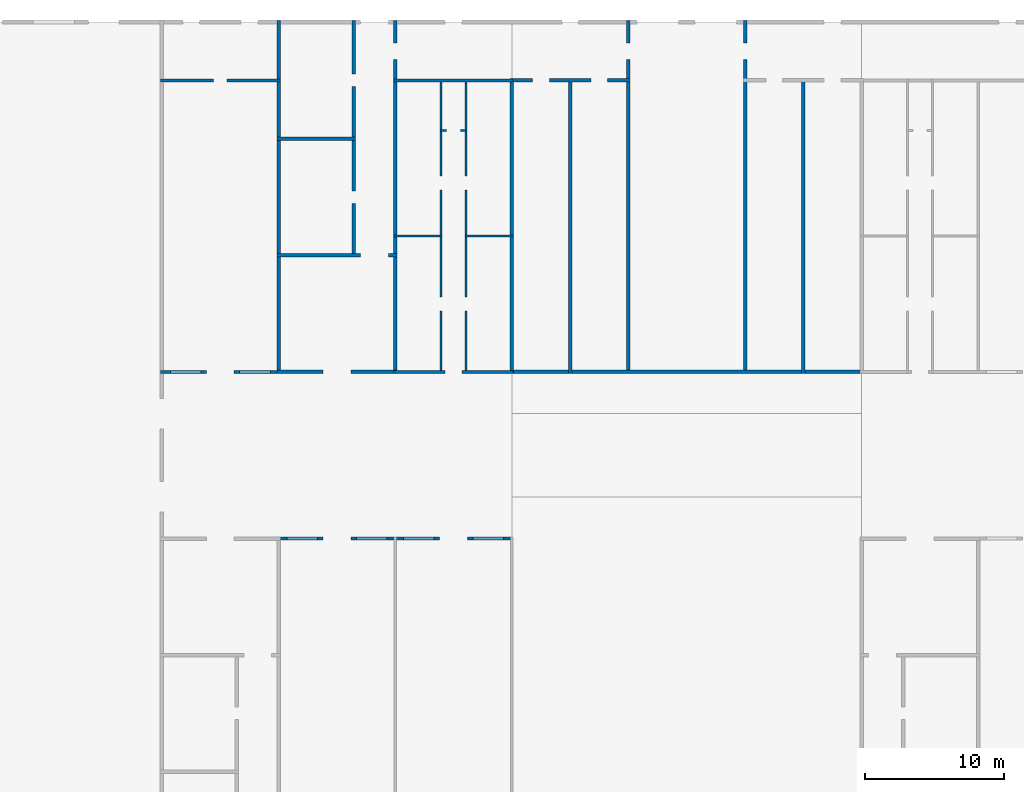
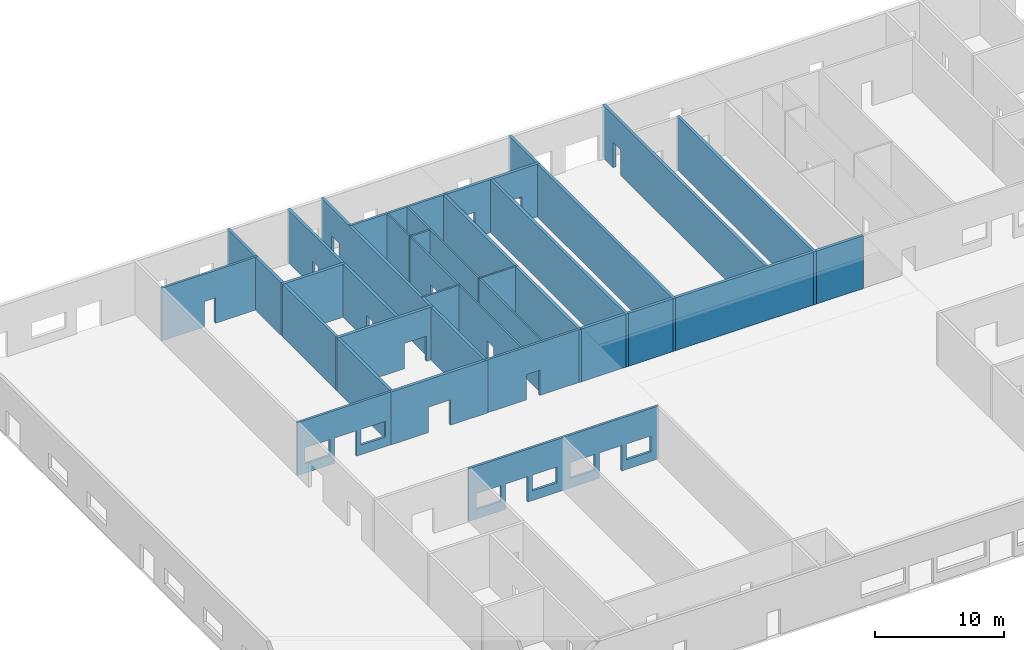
# One storey, part 2 of 4: 23 walls, 30 openings.
"""IFC4 building model written with IfcOpenShell, lengths in millimetres."""

from ifc_helpers import new_model, si_unit, frame, origin_with_axes, place, context, subcontext, project, spatial, indexed_curve, outline, extrude, type_object, element, save


model = new_model("IFC4")

# Units and contexts
model_context = context("Model", 3, precision=1e-05, world=origin_with_axes())
body_context = subcontext(model_context, "Body", "Model", "MODEL_VIEW")
ifc_project = project(units=[si_unit("AREAUNIT", "SQUARE_METRE"), si_unit("VOLUMEUNIT", "CUBIC_METRE"), si_unit("LENGTHUNIT", "METRE", prefix="MILLI")], contexts=[model_context])

# Site, building, storey
site = spatial("IfcSite", under=ifc_project, Name="PIN 00000000 (sample)")
building = spatial("IfcBuilding", under=site, Name="Sample Shopping Mall")
storey = spatial("IfcBuildingStorey", under=building, Name="Ground Floor", Elevation=0.0)

# Wall, openings
wall_type_1 = type_object("IfcWallType", Name="WT-200", PredefinedType="SOLIDWALL")
wall_1_placement = place(None, frame((30500.0, 40699.99999999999, 0.0), z_axis=(0.0, 0.0, 1.0), x_axis=(1.0, 0.0, 0.0)))
wall_1 = element("IfcWall", 1, at=wall_1_placement, inside=storey, type_object=wall_type_1, Name="W10", context=body_context, shape_type="SweptSolid", body=[
    extrude(outline(indexed_curve([(0.0, 0.0), (0.0, 200.0), (16999.999999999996, 200.0), (16999.999999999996, 0.0), (0.0, 0.0)], self_intersect=False)), origin_with_axes(), (0.0, 0.0, 1.0), 5000.0),
])
opening_1_placement = place(wall_1_placement, frame((3299.9999999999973, -100.00000000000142, 0.0), z_axis=(0.0, 0.0, 1.0), x_axis=(1.0, 0.0, 0.0)))
element("IfcOpeningElement", 2, at=opening_1_placement, cuts=wall_1, Name="D39-opening", context=body_context, shape_type="SweptSolid", body=[
    extrude(outline(indexed_curve([(0.0, 0.0), (0.0, 400.0), (1000.0, 400.0), (1000.0, 0.0), (0.0, 0.0)], self_intersect=False)), origin_with_axes(), (0.0, 0.0, 1.0), 2400.0),
])
opening_2_placement = place(wall_1_placement, frame((4300.000000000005, -100.00000000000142, 0.0), z_axis=(0.0, 0.0, 1.0), x_axis=(1.0, 0.0, 0.0)))
element("IfcOpeningElement", 3, at=opening_2_placement, cuts=wall_1, Name="-opening", context=body_context, shape_type="SweptSolid", body=[
    extrude(outline(indexed_curve([(0.0, 0.0), (0.0, 400.0), (1000.0, 400.0), (1000.0, 0.0), (0.0, 0.0)], self_intersect=False)), origin_with_axes(), (0.0, 0.0, 1.0), 2400.0),
])
opening_3_placement = place(wall_1_placement, frame((11700.000000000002, -100.00000000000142, 0.0), z_axis=(0.0, 0.0, 1.0), x_axis=(1.0, 0.0, 0.0)))
element("IfcOpeningElement", 4, at=opening_3_placement, cuts=wall_1, Name="D41-opening", context=body_context, shape_type="SweptSolid", body=[
    extrude(outline(indexed_curve([(0.0, 0.0), (0.0, 400.0), (1000.0, 400.0), (1000.0, 0.0), (0.0, 0.0)], self_intersect=False)), origin_with_axes(), (0.0, 0.0, 1.0), 2400.0),
])
opening_4_placement = place(wall_1_placement, frame((12700.000000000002, -100.00000000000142, 0.0), z_axis=(0.0, 0.0, 1.0), x_axis=(1.0, 0.0, 0.0)))
element("IfcOpeningElement", 5, at=opening_4_placement, cuts=wall_1, Name="-opening", context=body_context, shape_type="SweptSolid", body=[
    extrude(outline(indexed_curve([(0.0, 0.0), (0.0, 400.0), (1000.0, 400.0), (1000.0, 0.0), (0.0, 0.0)], self_intersect=False)), origin_with_axes(), (0.0, 0.0, 1.0), 2400.0),
])
opening_5_placement = place(wall_1_placement, frame((700.0000000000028, -100.00000000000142, 900.0), z_axis=(0.0, 0.0, 1.0), x_axis=(1.0, 0.0, 0.0)))
element("IfcOpeningElement", 6, at=opening_5_placement, cuts=wall_1, Name="-opening", context=body_context, shape_type="SweptSolid", body=[
    extrude(outline(indexed_curve([(0.0, 0.0), (0.0, 400.0), (2200.0, 400.0), (2200.0, 0.0), (0.0, 0.0)], self_intersect=False)), origin_with_axes(), (0.0, 0.0, 1.0), 1500.0),
])
opening_6_placement = place(wall_1_placement, frame((5700.000000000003, -100.00000000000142, 900.0), z_axis=(0.0, 0.0, 1.0), x_axis=(1.0, 0.0, 0.0)))
element("IfcOpeningElement", 7, at=opening_6_placement, cuts=wall_1, Name="-opening", context=body_context, shape_type="SweptSolid", body=[
    extrude(outline(indexed_curve([(0.0, 0.0), (0.0, 400.0), (2200.0, 400.0), (2200.0, 0.0), (0.0, 0.0)], self_intersect=False)), origin_with_axes(), (0.0, 0.0, 1.0), 1500.0),
])
opening_7_placement = place(wall_1_placement, frame((9100.000000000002, -100.00000000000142, 900.0), z_axis=(0.0, 0.0, 1.0), x_axis=(1.0, 0.0, 0.0)))
element("IfcOpeningElement", 8, at=opening_7_placement, cuts=wall_1, Name="-opening", context=body_context, shape_type="SweptSolid", body=[
    extrude(outline(indexed_curve([(0.0, 0.0), (0.0, 400.0), (2200.0, 400.0), (2200.0, 0.0), (0.0, 0.0)], self_intersect=False)), origin_with_axes(), (0.0, 0.0, 1.0), 1500.0),
])
opening_8_placement = place(wall_1_placement, frame((14100.000000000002, -100.00000000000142, 900.0), z_axis=(0.0, 0.0, 1.0), x_axis=(1.0, 0.0, 0.0)))
element("IfcOpeningElement", 9, at=opening_8_placement, cuts=wall_1, Name="-opening", context=body_context, shape_type="SweptSolid", body=[
    extrude(outline(indexed_curve([(0.0, 0.0), (0.0, 400.0), (2200.0, 400.0), (2200.0, 0.0), (0.0, 0.0)], self_intersect=False)), origin_with_axes(), (0.0, 0.0, 1.0), 1500.0),
])

wall_2_placement = place(None, frame((22099.999999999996, 52699.99999999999, 0.0), z_axis=(0.0, 0.0, 1.0), x_axis=(1.0, 0.0, 0.0)))
wall_2 = element("IfcWall", 10, at=wall_2_placement, inside=storey, type_object=wall_type_1, Name="W13", context=body_context, shape_type="SweptSolid", body=[
    extrude(outline(indexed_curve([(0.0, 0.0), (0.0, 200.0), (8600.000000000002, 200.0), (8600.000000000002, 0.0), (0.0, 0.0)], self_intersect=False)), origin_with_axes(), (0.0, 0.0, 1.0), 5000.0),
])
opening_9_placement = place(wall_2_placement, frame((3300.0000000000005, -100.00000000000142, 0.0), z_axis=(0.0, 0.0, 1.0), x_axis=(1.0, 0.0, 0.0)))
element("IfcOpeningElement", 11, at=opening_9_placement, cuts=wall_2, Name="D52-opening", context=body_context, shape_type="SweptSolid", body=[
    extrude(outline(indexed_curve([(0.0, 0.0), (0.0, 400.0), (1000.0, 400.0), (1000.0, 0.0), (0.0, 0.0)], self_intersect=False)), origin_with_axes(), (0.0, 0.0, 1.0), 2400.0),
])
opening_10_placement = place(wall_2_placement, frame((4300.000000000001, -100.00000000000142, 0.0), z_axis=(0.0, 0.0, 1.0), x_axis=(1.0, 0.0, 0.0)))
element("IfcOpeningElement", 12, at=opening_10_placement, cuts=wall_2, Name="-opening", context=body_context, shape_type="SweptSolid", body=[
    extrude(outline(indexed_curve([(0.0, 0.0), (0.0, 400.0), (1000.0, 400.0), (1000.0, 0.0), (0.0, 0.0)], self_intersect=False)), origin_with_axes(), (0.0, 0.0, 1.0), 2400.0),
])
opening_11_placement = place(wall_2_placement, frame((700.0000000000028, -100.00000000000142, 900.0), z_axis=(0.0, 0.0, 1.0), x_axis=(1.0, 0.0, 0.0)))
element("IfcOpeningElement", 13, at=opening_11_placement, cuts=wall_2, Name="-opening", context=body_context, shape_type="SweptSolid", body=[
    extrude(outline(indexed_curve([(0.0, 0.0), (0.0, 400.0), (2200.0, 400.0), (2200.0, 0.0), (0.0, 0.0)], self_intersect=False)), origin_with_axes(), (0.0, 0.0, 1.0), 1500.0),
])
opening_12_placement = place(wall_2_placement, frame((5699.999999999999, -100.00000000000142, 900.0), z_axis=(0.0, 0.0, 1.0), x_axis=(1.0, 0.0, 0.0)))
element("IfcOpeningElement", 14, at=opening_12_placement, cuts=wall_2, Name="-opening", context=body_context, shape_type="SweptSolid", body=[
    extrude(outline(indexed_curve([(0.0, 0.0), (0.0, 400.0), (2200.0, 400.0), (2200.0, 0.0), (0.0, 0.0)], self_intersect=False)), origin_with_axes(), (0.0, 0.0, 1.0), 1500.0),
])

# Wall, opening
wall_3_placement = place(None, frame((38900.0, 52699.99999999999, 0.0), z_axis=(0.0, 0.0, 1.0), x_axis=(1.0, 0.0, 0.0)))
wall_3 = element("IfcWall", 15, at=wall_3_placement, inside=storey, type_object=wall_type_1, Name="W15", context=body_context, shape_type="SweptSolid", body=[
    extrude(outline(indexed_curve([(0.0, 0.0), (0.0, 200.0), (8599.999999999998, 200.0), (8599.999999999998, 0.0), (0.0, 0.0)], self_intersect=False)), origin_with_axes(), (0.0, 0.0, 1.0), 5000.0),
])
opening_13_placement = place(wall_3_placement, frame((3700.0000000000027, -100.00000000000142, 0.0), z_axis=(0.0, 0.0, 1.0), x_axis=(1.0, 0.0, 0.0)))
element("IfcOpeningElement", 16, at=opening_13_placement, cuts=wall_3, Name="D60-opening", context=body_context, shape_type="SweptSolid", body=[
    extrude(outline(indexed_curve([(0.0, 0.0), (0.0, 400.0), (1200.0, 400.0), (1200.0, 0.0), (0.0, 0.0)], self_intersect=False)), origin_with_axes(), (0.0, 0.0, 1.0), 2400.0),
])

wall_4_placement = place(None, frame((22099.999999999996, 73700.0, 0.0), z_axis=(0.0, 0.0, 1.0), x_axis=(1.0, 0.0, 0.0)))
wall_4 = element("IfcWall", 17, at=wall_4_placement, inside=storey, type_object=wall_type_1, Name="W29", context=body_context, shape_type="SweptSolid", body=[
    extrude(outline(indexed_curve([(0.0, 0.0), (0.0, 200.0), (8600.000000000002, 200.0), (8600.000000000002, 0.0), (0.0, 0.0)], self_intersect=False)), origin_with_axes(), (0.0, 0.0, 1.0), 5000.0),
])
opening_14_placement = place(wall_4_placement, frame((3800.0000000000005, -99.99999999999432, 0.0), z_axis=(0.0, 0.0, 1.0), x_axis=(1.0, 0.0, 0.0)))
element("IfcOpeningElement", 18, at=opening_14_placement, cuts=wall_4, Name="-opening", context=body_context, shape_type="SweptSolid", body=[
    extrude(outline(indexed_curve([(0.0, 0.0), (0.0, 400.0), (1000.0, 400.0), (1000.0, 0.0), (0.0, 0.0)], self_intersect=False)), origin_with_axes(), (0.0, 0.0, 1.0), 2400.0),
])

# Wall
wall_5_placement = place(None, frame((38900.0, 73700.0, 0.0), z_axis=(0.0, 0.0, 1.0), x_axis=(1.0, 0.0, 0.0)))
element("IfcWall", 19, at=wall_5_placement, inside=storey, type_object=wall_type_1, Name="W30", context=body_context, shape_type="SweptSolid", body=[
    extrude(outline(indexed_curve([(0.0, 0.0), (0.0, 200.0), (8599.999999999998, 200.0), (8599.999999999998, 0.0), (0.0, 0.0)], self_intersect=False)), origin_with_axes(), (0.0, 0.0, 1.0), 5000.0),
])

# Wall, openings
wall_type_2 = type_object("IfcWallType", Name="WT-250", PredefinedType="SOLIDWALL")
wall_6_placement = place(None, frame((30475.0, 52674.99999999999, 0.0), z_axis=(0.0, 0.0, 1.0), x_axis=(1.0, 0.0, 0.0)))
wall_6 = element("IfcWall", 20, at=wall_6_placement, inside=storey, type_object=wall_type_2, Name="W14", context=body_context, shape_type="SweptSolid", body=[
    extrude(outline(indexed_curve([(0.0, 0.0), (0.0, 250.0), (8649.999999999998, 250.0), (8649.999999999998, 0.0), (0.0, 0.0)], self_intersect=False)), origin_with_axes(), (0.0, 0.0, 1.0), 5000.0),
])
opening_15_placement = place(wall_6_placement, frame((3324.9999999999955, -100.00000000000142, 0.0), z_axis=(0.0, 0.0, 1.0), x_axis=(1.0, 0.0, 0.0)))
element("IfcOpeningElement", 21, at=opening_15_placement, cuts=wall_6, Name="D54-opening", context=body_context, shape_type="SweptSolid", body=[
    extrude(outline(indexed_curve([(0.0, 0.0), (0.0, 450.0), (1000.0, 450.0), (1000.0, 0.0), (0.0, 0.0)], self_intersect=False)), origin_with_axes(), (0.0, 0.0, 1.0), 2400.0),
])
opening_16_placement = place(wall_6_placement, frame((4325.000000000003, -100.00000000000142, 0.0), z_axis=(0.0, 0.0, 1.0), x_axis=(1.0, 0.0, 0.0)))
element("IfcOpeningElement", 22, at=opening_16_placement, cuts=wall_6, Name="-opening", context=body_context, shape_type="SweptSolid", body=[
    extrude(outline(indexed_curve([(0.0, 0.0), (0.0, 450.0), (1000.0, 450.0), (1000.0, 0.0), (0.0, 0.0)], self_intersect=False)), origin_with_axes(), (0.0, 0.0, 1.0), 2400.0),
])

# Wall
wall_7_placement = place(None, frame((47275.0, 52674.99999999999, 0.0), z_axis=(0.0, 0.0, 1.0), x_axis=(1.0, 0.0, 0.0)))
element("IfcWall", 23, at=wall_7_placement, inside=storey, type_object=wall_type_2, Name="W16", context=body_context, shape_type="SweptSolid", body=[
    extrude(outline(indexed_curve([(0.0, 0.0), (0.0, 250.0), (25449.999999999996, 250.0), (25449.999999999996, 0.0), (0.0, 0.0)], self_intersect=False)), origin_with_axes(), (0.0, 0.0, 1.0), 5000.0),
])

# Wall, openings
wall_8_placement = place(None, frame((30475.0, 61075.0, 0.0), z_axis=(0.0, 0.0, 1.0), x_axis=(1.0, 0.0, 0.0)))
wall_8 = element("IfcWall", 24, at=wall_8_placement, inside=storey, type_object=wall_type_2, Name="W19", context=body_context, shape_type="SweptSolid", body=[
    extrude(outline(indexed_curve([(0.0, 0.0), (0.0, 250.0), (8649.999999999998, 250.0), (8649.999999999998, 0.0), (0.0, 0.0)], self_intersect=False)), origin_with_axes(), (0.0, 0.0, 1.0), 5000.0),
])
opening_17_placement = place(wall_8_placement, frame((6024.999999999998, -100.00000000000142, 0.0), z_axis=(0.0, 0.0, 1.0), x_axis=(1.0, 0.0, 0.0)))
element("IfcOpeningElement", 25, at=opening_17_placement, cuts=wall_8, Name="D55-opening", context=body_context, shape_type="SweptSolid", body=[
    extrude(outline(indexed_curve([(0.0, 0.0), (0.0, 450.0), (1000.0, 450.0), (1000.0, 0.0), (0.0, 0.0)], self_intersect=False)), origin_with_axes(), (0.0, 0.0, 1.0), 2400.0),
])
opening_18_placement = place(wall_8_placement, frame((7024.999999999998, -100.00000000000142, 0.0), z_axis=(0.0, 0.0, 1.0), x_axis=(1.0, 0.0, 0.0)))
element("IfcOpeningElement", 26, at=opening_18_placement, cuts=wall_8, Name="-opening", context=body_context, shape_type="SweptSolid", body=[
    extrude(outline(indexed_curve([(0.0, 0.0), (0.0, 450.0), (1000.0, 450.0), (1000.0, 0.0), (0.0, 0.0)], self_intersect=False)), origin_with_axes(), (0.0, 0.0, 1.0), 2400.0),
])

# Wall
wall_9_placement = place(None, frame((30475.0, 69475.0, 0.0), z_axis=(0.0, 0.0, 1.0), x_axis=(1.0, 0.0, 0.0)))
element("IfcWall", 27, at=wall_9_placement, inside=storey, type_object=wall_type_2, Name="W25", context=body_context, shape_type="SweptSolid", body=[
    extrude(outline(indexed_curve([(0.0, 0.0), (0.0, 250.0), (5649.999999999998, 250.0), (5649.999999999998, 0.0), (0.0, 0.0)], self_intersect=False)), origin_with_axes(), (0.0, 0.0, 1.0), 5000.0),
])

# Wall, openings
wall_10_placement = place(None, frame((47275.0, 73675.0, 0.0), z_axis=(0.0, 0.0, 1.0), x_axis=(1.0, 0.0, 0.0)))
wall_10 = element("IfcWall", 28, at=wall_10_placement, inside=storey, type_object=wall_type_2, Name="W31", context=body_context, shape_type="SweptSolid", body=[
    extrude(outline(indexed_curve([(0.0, 0.0), (0.0, 250.0), (8649.999999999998, 250.0), (8649.999999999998, 0.0), (0.0, 0.0)], self_intersect=False)), origin_with_axes(), (0.0, 0.0, 1.0), 5000.0),
])
opening_19_placement = place(wall_10_placement, frame((1625.0, -99.99999999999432, 0.0), z_axis=(0.0, 0.0, 1.0), x_axis=(1.0, 0.0, 0.0)))
element("IfcOpeningElement", 29, at=opening_19_placement, cuts=wall_10, Name="-opening", context=body_context, shape_type="SweptSolid", body=[
    extrude(outline(indexed_curve([(0.0, 0.0), (0.0, 450.0), (1200.0, 450.0), (1200.0, 0.0), (0.0, 0.0)], self_intersect=False)), origin_with_axes(), (0.0, 0.0, 1.0), 2400.0),
])
opening_20_placement = place(wall_10_placement, frame((5825.000000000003, -99.99999999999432, 0.0), z_axis=(0.0, 0.0, 1.0), x_axis=(1.0, 0.0, 0.0)))
element("IfcOpeningElement", 30, at=opening_20_placement, cuts=wall_10, Name="-opening", context=body_context, shape_type="SweptSolid", body=[
    extrude(outline(indexed_curve([(0.0, 0.0), (0.0, 450.0), (1200.0, 450.0), (1200.0, 0.0), (0.0, 0.0)], self_intersect=False)), origin_with_axes(), (0.0, 0.0, 1.0), 2400.0),
])

# Wall
wall_11_placement = place(None, frame((30725.0, 52674.99999999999, 0.0), z_axis=(0.0, 0.0, 1.0), x_axis=(6.123233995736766e-17, 1.0, 0.0)))
element("IfcWall", 31, at=wall_11_placement, inside=storey, type_object=wall_type_2, Name="W39", context=body_context, shape_type="SweptSolid", body=[
    extrude(outline(indexed_curve([(0.0, 0.0), (0.0, 250.0), (25450.000000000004, 250.0), (25450.000000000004, 0.0), (0.0, 0.0)], self_intersect=False)), origin_with_axes(), (0.0, 0.0, 1.0), 5000.0),
])

# Wall, openings
wall_12_placement = place(None, frame((36125.0, 61075.0, 0.0), z_axis=(0.0, 0.0, 1.0), x_axis=(6.123233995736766e-17, 1.0, 0.0)))
wall_12 = element("IfcWall", 32, at=wall_12_placement, inside=storey, type_object=wall_type_2, Name="W40", context=body_context, shape_type="SweptSolid", body=[
    extrude(outline(indexed_curve([(0.0, 0.0), (0.0, 250.0), (17049.999999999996, 250.0), (17049.999999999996, 0.0), (0.0, 0.0)], self_intersect=False)), origin_with_axes(), (0.0, 0.0, 1.0), 5000.0),
])
opening_21_placement = place(wall_12_placement, frame((3875.0, -100.00000000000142, 0.0), z_axis=(0.0, 0.0, 1.0), x_axis=(1.0, 0.0, 0.0)))
element("IfcOpeningElement", 33, at=opening_21_placement, cuts=wall_12, Name="-opening", context=body_context, shape_type="SweptSolid", body=[
    extrude(outline(indexed_curve([(0.0, 0.0), (0.0, 450.0), (900.0, 450.0), (900.0, 0.0), (0.0, 0.0)], self_intersect=False)), origin_with_axes(), (0.0, 0.0, 1.0), 2400.0),
])
opening_22_placement = place(wall_12_placement, frame((12275.000000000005, -100.00000000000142, 0.0), z_axis=(0.0, 0.0, 1.0), x_axis=(1.0, 0.0, 0.0)))
element("IfcOpeningElement", 34, at=opening_22_placement, cuts=wall_12, Name="-opening", context=body_context, shape_type="SweptSolid", body=[
    extrude(outline(indexed_curve([(0.0, 0.0), (0.0, 450.0), (900.0, 450.0), (900.0, 0.0), (0.0, 0.0)], self_intersect=False)), origin_with_axes(), (0.0, 0.0, 1.0), 2400.0),
])

# Wall, opening
wall_13_placement = place(None, frame((39125.0, 52674.99999999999, 0.0), z_axis=(0.0, 0.0, 1.0), x_axis=(6.123233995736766e-17, 1.0, 0.0)))
wall_13 = element("IfcWall", 35, at=wall_13_placement, inside=storey, type_object=wall_type_2, Name="W42", context=body_context, shape_type="SweptSolid", body=[
    extrude(outline(indexed_curve([(0.0, 0.0), (0.0, 250.0), (25450.000000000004, 250.0), (25450.000000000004, 0.0), (0.0, 0.0)], self_intersect=False)), origin_with_axes(), (0.0, 0.0, 1.0), 5000.0),
])
opening_23_placement = place(wall_13_placement, frame((22625.0, -99.99999999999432, 0.0), z_axis=(0.0, 0.0, 1.0), x_axis=(1.0, 0.0, 0.0)))
element("IfcOpeningElement", 36, at=opening_23_placement, cuts=wall_13, Name="-opening", context=body_context, shape_type="SweptSolid", body=[
    extrude(outline(indexed_curve([(0.0, 0.0), (0.0, 450.0), (1200.0, 450.0), (1200.0, 0.0), (0.0, 0.0)], self_intersect=False)), origin_with_axes(), (0.0, 0.0, 1.0), 2400.0),
])

# Walls
for number, where, z_axis, x_axis, name in (
    (37, (47525.0, 52674.99999999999, 0.0), (0.0, 0.0, 1.0), (6.123233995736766e-17, 1.0, 0.0), "W47"),
    (38, (51725.0, 52674.99999999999, 0.0), (0.0, 0.0, 1.0), (6.123233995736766e-17, 1.0, 0.0), "W49"),
):
    element("IfcWall", number, at=place(None, frame(where, z_axis=z_axis, x_axis=x_axis)), inside=storey, type_object=wall_type_2, Name=name, context=body_context, shape_type="SweptSolid", body=[
        extrude(outline(indexed_curve([(0.0, 0.0), (0.0, 250.0), (21250.0, 250.0), (21250.0, 0.0), (0.0, 0.0)], self_intersect=False)), origin_with_axes(), (0.0, 0.0, 1.0), 5000.0),
    ])

# Wall, opening
wall_14_placement = place(None, frame((55924.99999999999, 52674.99999999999, 0.0), z_axis=(0.0, 0.0, 1.0), x_axis=(6.123233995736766e-17, 1.0, 0.0)))
wall_14 = element("IfcWall", 39, at=wall_14_placement, inside=storey, type_object=wall_type_2, Name="W50", context=body_context, shape_type="SweptSolid", body=[
    extrude(outline(indexed_curve([(0.0, 0.0), (0.0, 250.0), (25450.000000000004, 250.0), (25450.000000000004, 0.0), (0.0, 0.0)], self_intersect=False)), origin_with_axes(), (0.0, 0.0, 1.0), 5000.0),
])
opening_24_placement = place(wall_14_placement, frame((22625.0, -99.99999999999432, 0.0), z_axis=(0.0, 0.0, 1.0), x_axis=(1.0, 0.0, 0.0)))
element("IfcOpeningElement", 40, at=opening_24_placement, cuts=wall_14, Name="-opening", context=body_context, shape_type="SweptSolid", body=[
    extrude(outline(indexed_curve([(0.0, 0.0), (0.0, 450.0), (1200.0, 450.0), (1200.0, 0.0), (0.0, 0.0)], self_intersect=False)), origin_with_axes(), (0.0, 0.0, 1.0), 2400.0),
])

wall_15_placement = place(None, frame((64325.0, 52674.99999999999, 0.0), z_axis=(0.0, 0.0, 1.0), x_axis=(6.123233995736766e-17, 1.0, 0.0)))
wall_15 = element("IfcWall", 41, at=wall_15_placement, inside=storey, type_object=wall_type_2, Name="W51", context=body_context, shape_type="SweptSolid", body=[
    extrude(outline(indexed_curve([(0.0, 0.0), (0.0, 250.0), (25450.000000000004, 250.0), (25450.000000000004, 0.0), (0.0, 0.0)], self_intersect=False)), origin_with_axes(), (0.0, 0.0, 1.0), 5000.0),
])
opening_25_placement = place(wall_15_placement, frame((22624.999999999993, -99.99999999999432, 0.0), z_axis=(0.0, 0.0, 1.0), x_axis=(1.0, 0.0, 0.0)))
element("IfcOpeningElement", 42, at=opening_25_placement, cuts=wall_15, Name="-opening", context=body_context, shape_type="SweptSolid", body=[
    extrude(outline(indexed_curve([(0.0, 0.0), (0.0, 450.0), (1200.0, 450.0), (1200.0, 0.0), (0.0, 0.0)], self_intersect=False)), origin_with_axes(), (0.0, 0.0, 1.0), 2400.0),
])

# Walls
wall_16_placement = place(None, frame((68525.0, 52674.99999999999, 0.0), z_axis=(0.0, 0.0, 1.0), x_axis=(6.123233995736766e-17, 1.0, 0.0)))
element("IfcWall", 43, at=wall_16_placement, inside=storey, type_object=wall_type_2, Name="W52", context=body_context, shape_type="SweptSolid", body=[
    extrude(outline(indexed_curve([(0.0, 0.0), (0.0, 250.0), (21250.0, 250.0), (21250.0, 0.0), (0.0, 0.0)], self_intersect=False)), origin_with_axes(), (0.0, 0.0, 1.0), 5000.0),
])
wall_type_3 = type_object("IfcWallType", Name="WT-150", PredefinedType="SOLIDWALL")
for number, where, z_axis, x_axis, name in (
    (44, (38924.99999999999, 62525.0, 0.0), (0.0, 0.0, 1.0), (1.0, 0.0, 0.0), "W21"),
    (45, (44025.0, 62525.0, 0.0), (0.0, 0.0, 1.0), (1.0, 0.0, 0.0), "W22"),
):
    element("IfcWall", number, at=place(None, frame(where, z_axis=z_axis, x_axis=x_axis)), inside=storey, type_object=wall_type_3, Name=name, context=body_context, shape_type="SweptSolid", body=[
        extrude(outline(indexed_curve([(0.0, 0.0), (0.0, 150.0), (3449.999999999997, 150.0), (3449.999999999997, 0.0), (0.0, 0.0)], self_intersect=False)), origin_with_axes(), (0.0, 0.0, 1.0), 5000.0),
    ])

# Wall, opening
wall_17_placement = place(None, frame((42224.99999999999, 70125.0, 0.0), z_axis=(0.0, 0.0, 1.0), x_axis=(1.0, 0.0, 0.0)))
wall_17 = element("IfcWall", 46, at=wall_17_placement, inside=storey, type_object=wall_type_3, Name="W27", context=body_context, shape_type="SweptSolid", body=[
    extrude(outline(indexed_curve([(0.0, 0.0), (0.0, 150.0), (1950.000000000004, 150.0), (1950.000000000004, 0.0), (0.0, 0.0)], self_intersect=False)), origin_with_axes(), (0.0, 0.0, 1.0), 5000.0),
])
opening_26_placement = place(wall_17_placement, frame((475.0000000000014, -99.99999999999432, 0.0), z_axis=(0.0, 0.0, 1.0), x_axis=(1.0, 0.0, 0.0)))
element("IfcOpeningElement", 47, at=opening_26_placement, cuts=wall_17, Name="-opening", context=body_context, shape_type="SweptSolid", body=[
    extrude(outline(indexed_curve([(0.0, 0.0), (0.0, 349.99999999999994), (1000.0, 349.99999999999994), (1000.0, 0.0), (0.0, 0.0)], self_intersect=False)), origin_with_axes(), (0.0, 0.0, 1.0), 2400.0),
])

# Wall, openings
wall_18_placement = place(None, frame((42375.0, 52724.99999999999, 0.0), z_axis=(0.0, 0.0, 1.0), x_axis=(6.123233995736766e-17, 1.0, 0.0)))
wall_18 = element("IfcWall", 48, at=wall_18_placement, inside=storey, type_object=wall_type_3, Name="W43", context=body_context, shape_type="SweptSolid", body=[
    extrude(outline(indexed_curve([(0.0, 0.0), (0.0, 150.0), (21149.999999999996, 150.0), (21149.999999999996, 0.0), (0.0, 0.0)], self_intersect=False)), origin_with_axes(), (0.0, 0.0, 1.0), 5000.0),
])
opening_27_placement = place(wall_18_placement, frame((4475.000000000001, -99.99999999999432, 0.0), z_axis=(0.0, 0.0, 1.0), x_axis=(1.0, 0.0, 0.0)))
element("IfcOpeningElement", 49, at=opening_27_placement, cuts=wall_18, Name="-opening", context=body_context, shape_type="SweptSolid", body=[
    extrude(outline(indexed_curve([(0.0, 0.0), (0.0, 349.99999999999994), (1000.0, 349.99999999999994), (1000.0, 0.0), (0.0, 0.0)], self_intersect=False)), origin_with_axes(), (0.0, 0.0, 1.0), 2400.0),
])
opening_28_placement = place(wall_18_placement, frame((13174.999999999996, -99.99999999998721, 0.0), z_axis=(0.0, 0.0, 1.0), x_axis=(1.0, 0.0, 0.0)))
element("IfcOpeningElement", 50, at=opening_28_placement, cuts=wall_18, Name="-opening", context=body_context, shape_type="SweptSolid", body=[
    extrude(outline(indexed_curve([(0.0, 0.0), (0.0, 349.99999999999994), (1000.0, 349.99999999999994), (1000.0, 0.0), (0.0, 0.0)], self_intersect=False)), origin_with_axes(), (0.0, 0.0, 1.0), 2400.0),
])

wall_19_placement = place(None, frame((44175.0, 52724.99999999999, 0.0), z_axis=(0.0, 0.0, 1.0), x_axis=(6.123233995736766e-17, 1.0, 0.0)))
wall_19 = element("IfcWall", 51, at=wall_19_placement, inside=storey, type_object=wall_type_3, Name="W44", context=body_context, shape_type="SweptSolid", body=[
    extrude(outline(indexed_curve([(0.0, 0.0), (0.0, 150.0), (21149.999999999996, 150.0), (21149.999999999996, 0.0), (0.0, 0.0)], self_intersect=False)), origin_with_axes(), (0.0, 0.0, 1.0), 5000.0),
])
opening_29_placement = place(wall_19_placement, frame((4475.000000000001, -99.99999999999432, 0.0), z_axis=(0.0, 0.0, 1.0), x_axis=(1.0, 0.0, 0.0)))
element("IfcOpeningElement", 52, at=opening_29_placement, cuts=wall_19, Name="-opening", context=body_context, shape_type="SweptSolid", body=[
    extrude(outline(indexed_curve([(0.0, 0.0), (0.0, 349.99999999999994), (1000.0, 349.99999999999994), (1000.0, 0.0), (0.0, 0.0)], self_intersect=False)), origin_with_axes(), (0.0, 0.0, 1.0), 2400.0),
])
opening_30_placement = place(wall_19_placement, frame((13174.999999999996, -99.99999999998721, 0.0), z_axis=(0.0, 0.0, 1.0), x_axis=(1.0, 0.0, 0.0)))
element("IfcOpeningElement", 53, at=opening_30_placement, cuts=wall_19, Name="-opening", context=body_context, shape_type="SweptSolid", body=[
    extrude(outline(indexed_curve([(0.0, 0.0), (0.0, 349.99999999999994), (1000.0, 349.99999999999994), (1000.0, 0.0), (0.0, 0.0)], self_intersect=False)), origin_with_axes(), (0.0, 0.0, 1.0), 2400.0),
])

save(model, "model.ifc")
